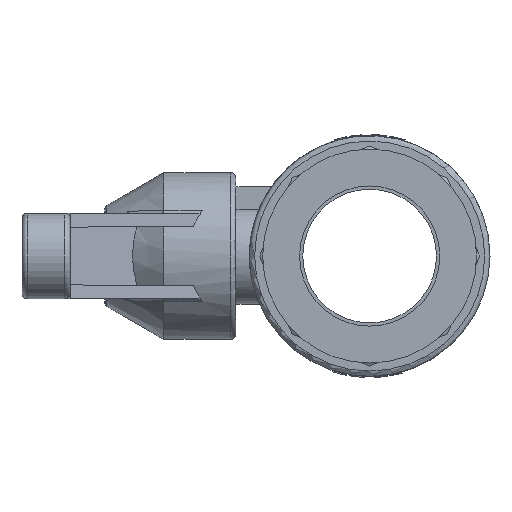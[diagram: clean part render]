
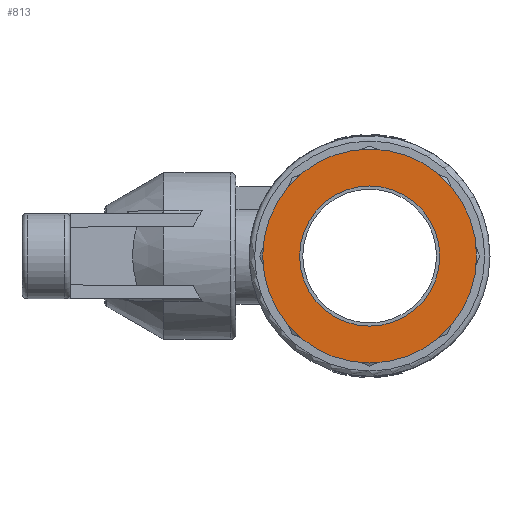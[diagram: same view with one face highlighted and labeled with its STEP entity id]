
A CAD part, left-side view. The second image highlights one B-rep face of the part: STEP entity #813.
In plain terms, the highlighted planar face has unit normal (-1, 0, 0) as drawn and (0, 0, -1) by its records, which use the part's own axes.
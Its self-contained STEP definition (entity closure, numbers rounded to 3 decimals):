
#813 = ADVANCED_FACE( '', ( #1666, #1667 ), #1668, .T. );
#1666 = FACE_OUTER_BOUND( '', #2663, .T. );
#1667 = FACE_BOUND( '', #2664, .T. );
#1668 = PLANE( '', #2665 );
#2663 = EDGE_LOOP( '', ( #5158 ) );
#2664 = EDGE_LOOP( '', ( #5159 ) );
#2665 = AXIS2_PLACEMENT_3D( '', #5160, #5161, #5162 );
#5158 = ORIENTED_EDGE( '', *, *, #6356, .T. );
#5159 = ORIENTED_EDGE( '', *, *, #6344, .F. );
#5160 = CARTESIAN_POINT( '', ( -13.1, 0., 0. ) );
#5161 = DIRECTION( '', ( 0., 0., -1. ) );
#5162 = DIRECTION( '', ( -1., 0., 0. ) );
#6344 = EDGE_CURVE( '', #7683, #7683, #7684, .T. );
#6356 = EDGE_CURVE( '', #7699, #7699, #7700, .T. );
#7683 = VERTEX_POINT( '', #10999 );
#7684 = CIRCLE( '', #11000, 13.1 );
#7699 = VERTEX_POINT( '', #11030 );
#7700 = CIRCLE( '', #11031, 20. );
#10999 = CARTESIAN_POINT( '', ( -13.1, 0., 0. ) );
#11000 = AXIS2_PLACEMENT_3D( '', #12408, #12409, #12410 );
#11030 = CARTESIAN_POINT( '', ( -20., 0., 0. ) );
#11031 = AXIS2_PLACEMENT_3D( '', #12422, #12423, #12424 );
#12408 = CARTESIAN_POINT( '', ( 0., 0., 0. ) );
#12409 = DIRECTION( '', ( 0., 0., -1. ) );
#12410 = DIRECTION( '', ( -1., 0., 0. ) );
#12422 = CARTESIAN_POINT( '', ( 0., 0., 0. ) );
#12423 = DIRECTION( '', ( 0., 0., -1. ) );
#12424 = DIRECTION( '', ( -1., 0., 0. ) );
